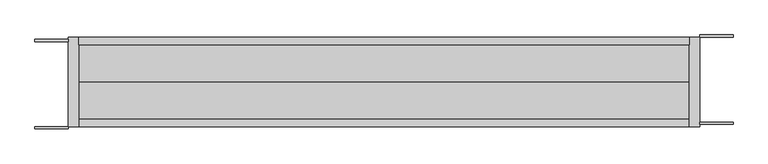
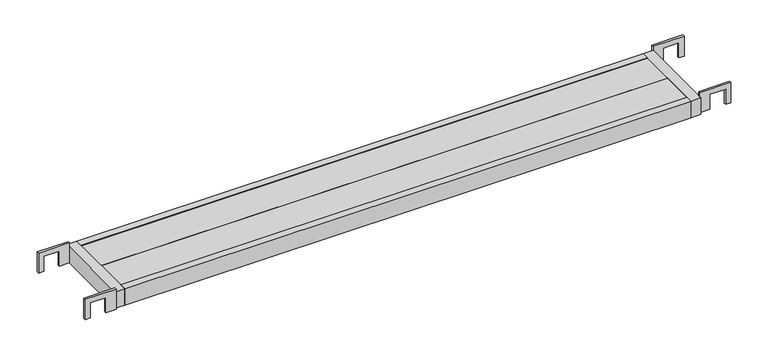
"""IFC4 building model written with IfcOpenShell, lengths in millimetres: proxy geometry, AKK布板HF-218_斜線なし_軽 : 鋼製布板 HF-218."""

from ifc_helpers import new_model, si_unit, frame, origin, place, context, project, spatial, polyline, outline, extrude, source, transform, mapped, element, save


def generic_models_9cb0f32e(model_context):
    return source(origin(), model_context, "Body", "SweptSolid", [
        extrude(outline(polyline([(37.5, 1762.5), (-24.1, 1762.5), (-24.1, 1792.0), (22.0, 1792.0), (22.0, 1837.0), (-24.1, 1837.0), (-24.1, 1852.0), (37.5, 1852.0), (37.5, 1762.5)])), frame((0.0, 12.0, 0.0), z_axis=(0.0, 1.0, 0.0), x_axis=(0.0, 0.0, 1.0)), (0.0, 0.0, 1.0), 6.0),
        extrude(outline(polyline([(37.5, 1762.5), (-24.1, 1762.5), (-24.1, 1792.0), (22.0, 1792.0), (22.0, 1837.0), (-24.1, 1837.0), (-24.1, 1852.0), (37.5, 1852.0), (37.5, 1762.5)])), frame((0.0, 246.0, 0.0), z_axis=(0.0, 1.0, 0.0), x_axis=(0.0, 0.0, 1.0)), (0.0, 0.0, 1.0), 6.0),
        extrude(outline(polyline([(37.5, -23.0), (-24.1, -23.0), (-24.1, -8.0), (22.0, -8.0), (22.0, 37.0), (-24.1, 37.0), (-24.1, 66.5), (37.5, 66.5), (37.5, -23.0)])), frame((0.0, 0.0, 0.0), z_axis=(0.0, 1.0, 0.0), x_axis=(0.0, 0.0, 1.0)), (0.0, 0.0, 1.0), 6.0),
        extrude(outline(polyline([(37.5, -23.0), (-24.1, -23.0), (-24.1, -8.0), (22.0, -8.0), (22.0, 37.0), (-24.1, 37.0), (-24.1, 66.5), (37.5, 66.5), (37.5, -23.0)])), frame((0.0, 234.0, 0.0), z_axis=(0.0, 1.0, 0.0), x_axis=(0.0, 0.0, 1.0)), (0.0, 0.0, 1.0), 6.0),
        extrude(outline(polyline([(1734.5, 226.0), (1734.5, 126.0), (94.5, 126.0), (94.5, 226.0), (1734.5, 226.0)])), frame((0.0, 0.0, 17.5), z_axis=(0.0, 0.0, 1.0), x_axis=(1.0, 0.0, 0.0)), (0.0, 0.0, 1.0), 5.0),
        extrude(outline(polyline([(1734.5, 126.0), (1734.5, 26.0), (94.5, 26.0), (94.5, 126.0), (1734.5, 126.0)])), frame((0.0, 0.0, 17.5), z_axis=(0.0, 0.0, 1.0), x_axis=(1.0, 0.0, 0.0)), (0.0, 0.0, 1.0), 5.0),
        extrude(outline(polyline([(1734.5, 246.0), (1734.5, 226.0), (94.5, 226.0), (94.5, 246.0), (1734.5, 246.0)])), frame((0.0, 0.0, -25.0), z_axis=(0.0, 0.0, 1.0), x_axis=(1.0, 0.0, 0.0)), (0.0, 0.0, 1.0), 50.0),
        extrude(outline(polyline([(1734.5, 6.0), (1734.5, 246.0), (1762.5, 246.0), (1762.5, 6.0), (1734.5, 6.0)])), frame((0.0, 0.0, -25.0), z_axis=(0.0, 0.0, 1.0), x_axis=(1.0, 0.0, 0.0)), (0.0, 0.0, 1.0), 50.0),
        extrude(outline(polyline([(66.5, 6.0), (66.5, 246.0), (94.5, 246.0), (94.5, 6.0), (66.5, 6.0)])), frame((0.0, 0.0, -25.0), z_axis=(0.0, 0.0, 1.0), x_axis=(1.0, 0.0, 0.0)), (0.0, 0.0, 1.0), 50.0),
        extrude(outline(polyline([(1734.5, 26.0), (1734.5, 6.0), (94.5, 6.0), (94.5, 26.0), (1734.5, 26.0)])), frame((0.0, 0.0, -25.0), z_axis=(0.0, 0.0, 1.0), x_axis=(1.0, 0.0, 0.0)), (0.0, 0.0, 1.0), 50.0),
    ])


if __name__ == "__main__":
    model = new_model("IFC4")
    model_context = context("Model", 3, world=origin())
    ifc_project = project(units=[si_unit("LENGTHUNIT", "METRE", prefix="MILLI")], contexts=[model_context])
    site = spatial("IfcSite", under=ifc_project)
    building = spatial("IfcBuilding", under=site)
    placement = place(None, origin())
    generic_models_shape = generic_models_9cb0f32e(model_context)
    element("IfcBuildingElementProxy", 1, Name="AKK布板HF-218_斜線なし_軽 : 鋼製布板 HF-218", ObjectType="AKK布板HF-218_斜線なし_軽 : 鋼製布板 HF-218", at=placement, inside=building, context=model_context, shape_type="MappedRepresentation", body=[
        mapped(generic_models_shape, transform((0.0, 0.0, 0.0), x_axis=(1.0, 0.0, 0.0), y_axis=(0.0, 1.0, 0.0), z_axis=(0.0, 0.0, 1.0))),
    ])
    save(model, "model.ifc")
